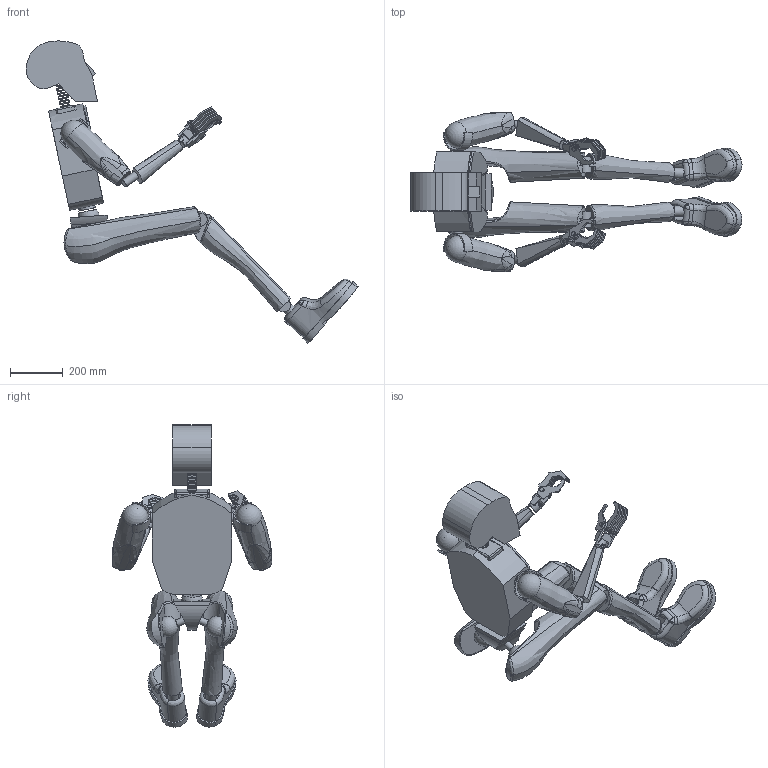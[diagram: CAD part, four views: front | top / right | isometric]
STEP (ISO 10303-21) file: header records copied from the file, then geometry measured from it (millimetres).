
FILE_DESCRIPTION(/* description */ (''),/* implementation_level */ '2;1');
FILE_NAME(/* name */ 'H II_assembly (SITTING)_Simplify_5.stp',/* time_stamp */ '2026-03-23T13:22:15-03:00',/* author */ ('cpEwe'),/* organization */ (''),/* preprocessor_version */ 'ST-DEVELOPER v20.1',/* originating_system */ 'Autodesk Inventor 2026',/* authorisation */ '');
FILE_SCHEMA (('AUTOMOTIVE_DESIGN { 1 0 10303 214 3 1 1 }'));
Products named in the file (1): H II_assembly (SITTING)_Simplify_5
Bounding box: 1262.43 x 607.19 x 1149.14 mm (x, y, z)
Volume: 44784993.4 mm3; surface area: 2081695.8 mm2
Topology: 8 solids, 8 shells, 712 faces, 1957 edges, 1278 vertices
Faces by surface type: plane 331, cylinder 180, bspline 167, torus 17, sphere 9, cone 8
Full cylindrical faces by diameter (mm): 14 x2, 15 x4, 16 x8, 20 x2, 25 x2, 30 x2, 35 x2, 38 x7, 40 x2, 65 x1
Entity records: 79667 total; most frequent: CARTESIAN_POINT 62056, ORIENTED_EDGE 3882, DIRECTION 2939, EDGE_CURVE 1941, VERTEX_POINT 1278, AXIS2_PLACEMENT_3D 1037, LINE 865, VECTOR 865
